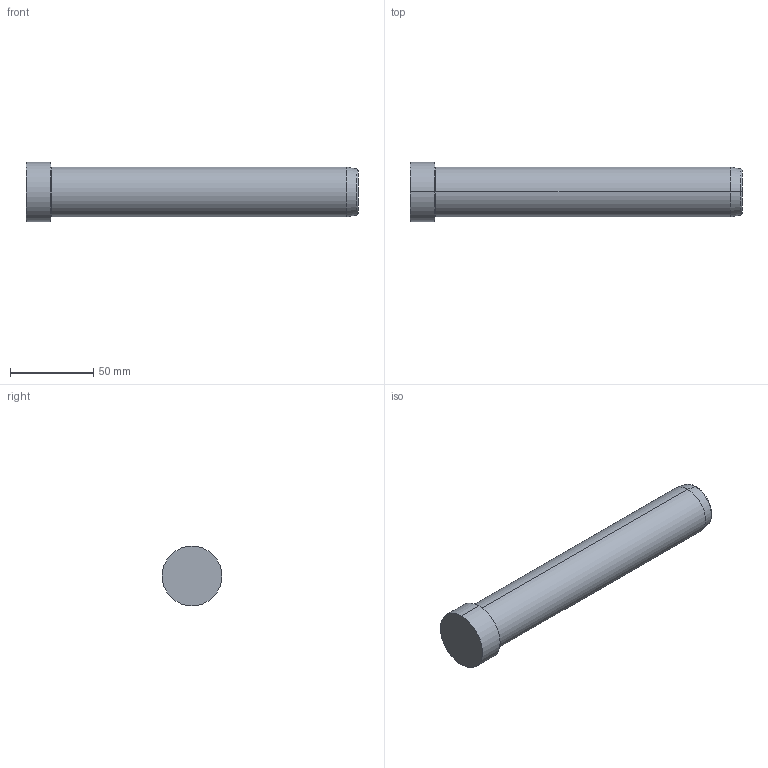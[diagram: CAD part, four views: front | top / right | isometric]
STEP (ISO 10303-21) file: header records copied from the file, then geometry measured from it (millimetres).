
FILE_DESCRIPTION( ( 'STEP AP203' ), '1' );
FILE_NAME( 'D:/Delta 3 D/D01D/30/D01D - 30x200.step', '2003-01-02T23:35:47', ( ' ' ), ( ' ' ), 'XStep 1.0', ' ', ' ' );
FILE_SCHEMA( ( 'CONFIG_CONTROL_DESIGN' ) );
Length unit declared in the file: metre
Products named in the file (1): 1
Bounding box: 200 x 36 x 36 mm (x, y, z)
Volume: 145617.2 mm3; surface area: 21060.3 mm2
Topology: 1 solids, 1 shells, 14 faces, 26 edges, 16 vertices
Faces by surface type: revolution 8, bspline 6
Entity records: 437 total; most frequent: CARTESIAN_POINT 121, ORIENTED_EDGE 52, DIRECTION 50, EDGE_CURVE 26, AXIS2_PLACEMENT_3D 17, EDGE_LOOP 16, VERTEX_POINT 16, CIRCLE 16
